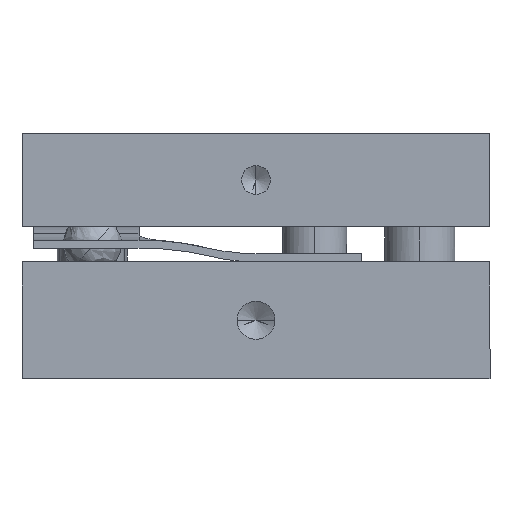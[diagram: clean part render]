
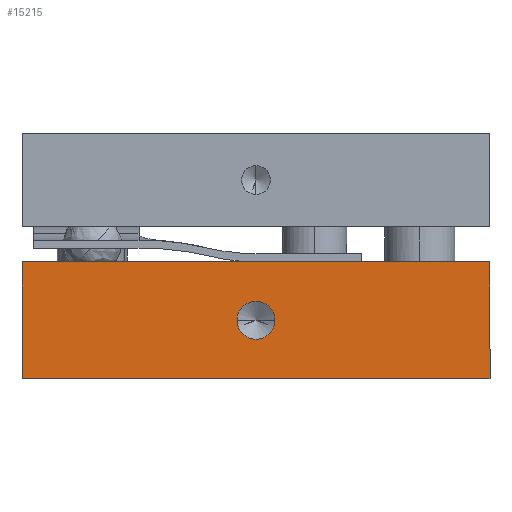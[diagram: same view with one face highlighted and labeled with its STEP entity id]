
A CAD part, front view. The second image highlights one B-rep face of the part: STEP entity #15215.
In plain terms, the highlighted planar face has unit normal (0, -1, 0).
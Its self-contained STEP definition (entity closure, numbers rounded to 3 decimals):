
#13860 = EDGE_CURVE ( 'NONE', #13861, #13909, #24621, .T. ) ;
#13861 = VERTEX_POINT ( 'NONE', #24671 ) ;
#13909 = VERTEX_POINT ( 'NONE', #24705 ) ;
#14882 = EDGE_CURVE ( 'NONE', #13909, #13861, #26727, .T. ) ;
#15053 = VERTEX_POINT ( 'NONE', #26761 ) ;
#15055 = EDGE_CURVE ( 'NONE', #15056, #15053, #26822, .T. ) ;
#15056 = VERTEX_POINT ( 'NONE', #26818 ) ;
#15211 = VERTEX_POINT ( 'NONE', #27056 ) ;
#15215 = ADVANCED_FACE ( 'NONE', ( #27105, #27104 ), #27103, .T. ) ;
#15267 = EDGE_LOOP ( 'NONE', ( #15268, #15269 ) ) ;
#15268 = ORIENTED_EDGE ( 'NONE', *, *, #14882, .T. ) ;
#15269 = ORIENTED_EDGE ( 'NONE', *, *, #13860, .T. ) ;
#15270 = EDGE_LOOP ( 'NONE', ( #15271, #15272, #15275, #15277 ) ) ;
#15271 = ORIENTED_EDGE ( 'NONE', *, *, #15055, .T. ) ;
#15272 = ORIENTED_EDGE ( 'NONE', *, *, #15273, .F. ) ;
#15273 = EDGE_CURVE ( 'NONE', #15274, #15053, #27219, .T. ) ;
#15274 = VERTEX_POINT ( 'NONE', #27215 ) ;
#15275 = ORIENTED_EDGE ( 'NONE', *, *, #15276, .F. ) ;
#15276 = EDGE_CURVE ( 'NONE', #15211, #15274, #27214, .T. ) ;
#15277 = ORIENTED_EDGE ( 'NONE', *, *, #15287, .T. ) ;
#15287 = EDGE_CURVE ( 'NONE', #15211, #15056, #27197, .T. ) ;
#24613 = DIRECTION ( 'NONE',  ( -1., 0., 0. ) ) ;
#24614 = DIRECTION ( 'NONE',  ( 0., 1., 0. ) ) ;
#24615 = CARTESIAN_POINT ( 'NONE',  ( 20., 0., 5. ) ) ;
#24616 = AXIS2_PLACEMENT_3D ( 'NONE', #24615, #24614, #24613 ) ;
#24621 = CIRCLE ( 'NONE', #24616, 1.621 ) ;
#24671 = CARTESIAN_POINT ( 'NONE',  ( 21.621, 0., 5. ) ) ;
#24705 = CARTESIAN_POINT ( 'NONE',  ( 18.379, 0., 5. ) ) ;
#26723 = DIRECTION ( 'NONE',  ( -1., 0., 0. ) ) ;
#26724 = DIRECTION ( 'NONE',  ( 0., 1., 0. ) ) ;
#26725 = CARTESIAN_POINT ( 'NONE',  ( 20., 0., 5. ) ) ;
#26726 = AXIS2_PLACEMENT_3D ( 'NONE', #26725, #26724, #26723 ) ;
#26727 = CIRCLE ( 'NONE', #26726, 1.621 ) ;
#26761 = CARTESIAN_POINT ( 'NONE',  ( 40., 0., 0. ) ) ;
#26818 = CARTESIAN_POINT ( 'NONE',  ( 0., 0., 0. ) ) ;
#26819 = DIRECTION ( 'NONE',  ( 1., 0., 0. ) ) ;
#26820 = VECTOR ( 'NONE', #26819, 1000. ) ;
#26821 = CARTESIAN_POINT ( 'NONE',  ( 40., 0., 0. ) ) ;
#26822 = LINE ( 'NONE', #26821, #26820 ) ;
#27056 = CARTESIAN_POINT ( 'NONE',  ( 0., 0., 10. ) ) ;
#27099 = DIRECTION ( 'NONE',  ( 0., 0., -1. ) ) ;
#27100 = DIRECTION ( 'NONE',  ( 0., -1., 0. ) ) ;
#27101 = CARTESIAN_POINT ( 'NONE',  ( 40., 0., 0. ) ) ;
#27102 = AXIS2_PLACEMENT_3D ( 'NONE', #27101, #27100, #27099 ) ;
#27103 = PLANE ( 'NONE',  #27102 ) ;
#27104 = FACE_OUTER_BOUND ( 'NONE', #15270, .T. ) ;
#27105 = FACE_BOUND ( 'NONE', #15267, .T. ) ;
#27194 = DIRECTION ( 'NONE',  ( 0., 0., -1. ) ) ;
#27195 = VECTOR ( 'NONE', #27194, 1000. ) ;
#27196 = CARTESIAN_POINT ( 'NONE',  ( 0., 0., 0. ) ) ;
#27197 = LINE ( 'NONE', #27196, #27195 ) ;
#27211 = DIRECTION ( 'NONE',  ( 1., 0., 0. ) ) ;
#27212 = VECTOR ( 'NONE', #27211, 1000. ) ;
#27213 = CARTESIAN_POINT ( 'NONE',  ( 14.977, 0., 10. ) ) ;
#27214 = LINE ( 'NONE', #27213, #27212 ) ;
#27215 = CARTESIAN_POINT ( 'NONE',  ( 40., 0., 10. ) ) ;
#27216 = DIRECTION ( 'NONE',  ( 0., 0., -1. ) ) ;
#27217 = VECTOR ( 'NONE', #27216, 1000. ) ;
#27218 = CARTESIAN_POINT ( 'NONE',  ( 40., 0., 0. ) ) ;
#27219 = LINE ( 'NONE', #27218, #27217 ) ;
